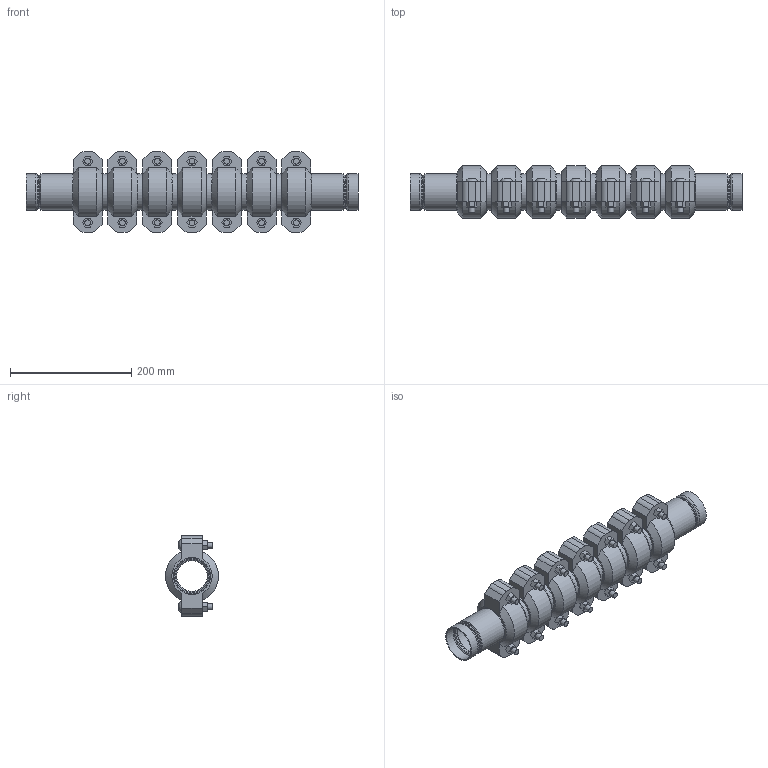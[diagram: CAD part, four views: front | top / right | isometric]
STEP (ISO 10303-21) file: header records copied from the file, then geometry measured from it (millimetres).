
FILE_DESCRIPTION(/* description */ ('VIC STRENGTHIN 100 EXPANSION JOINT 7 COUPLINGS COMPRESSED STYLE E155 (ST1)','CAx-IF Rec.Pracs.---Representation and Presentation of Product Manufacturing Information (PMI)---4.0---2014-10-13'),/* implementation_level */ '2;1');
FILE_NAME(/* name */ 'C:\Users\Vjadhav\AppData\Roaming\Autodesk\ApplicationPlugins\Victaulic.Temp\A926\Victaulic_SS-StrengThin 100_Expansion Joint_Compressed_7 Couplings_Style E155 (ST1)_2 (50).stp',/* time_stamp */ '2021-07-23T12:34:50+05:00',/* author */ ('kkamble'),/* organization */ ('Victaulic'),/* preprocessor_version */ 'ST-DEVELOPER v17.2',/* originating_system */ 'Autodesk Inventor 2019',/* authorisation */ '');
FILE_SCHEMA (('AP242_MANAGED_MODEL_BASED_3D_ENGINEERING_MIM_LF { 1 0 10303 442 1 1 4 }'));
Length unit declared in the file: inch
Products named in the file (4): E155-02.0; E494G-02.0; Nipple-02.0; 075-02.0
Assembly tree (15 placements, depth 2):
  E155-02.0
    E494G-02.0  x2
    Nipple-02.0  x6
    075-02.0  x7
Bounding box: 547.62 x 87.12 x 132.59 mm (x, y, z)
Volume: 1669588.8 mm3; surface area: 485477.5 mm2
Topology: 15 solids, 29 shells, 511 faces, 1291 edges, 912 vertices
Faces by surface type: plane 286, cylinder 147, torus 32, cone 32, bspline 14
Full cylindrical faces by diameter (mm): 9.525 x28, 11.43 x14, 51.13 x2, 52.502 x6, 53.95 x2, 54.331 x2, 57.125 x6, 57.15 x14, 60.325 x31
Entity records: 3679 total; most frequent: DIRECTION 655, CARTESIAN_POINT 647, ORIENTED_EDGE 536, AXIS2_PLACEMENT_3D 279, EDGE_CURVE 268, VERTEX_POINT 193, CIRCLE 163, EDGE_LOOP 123
